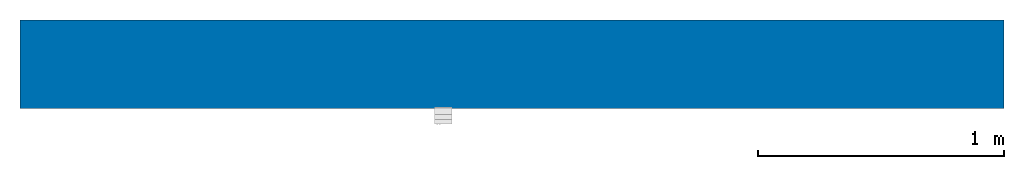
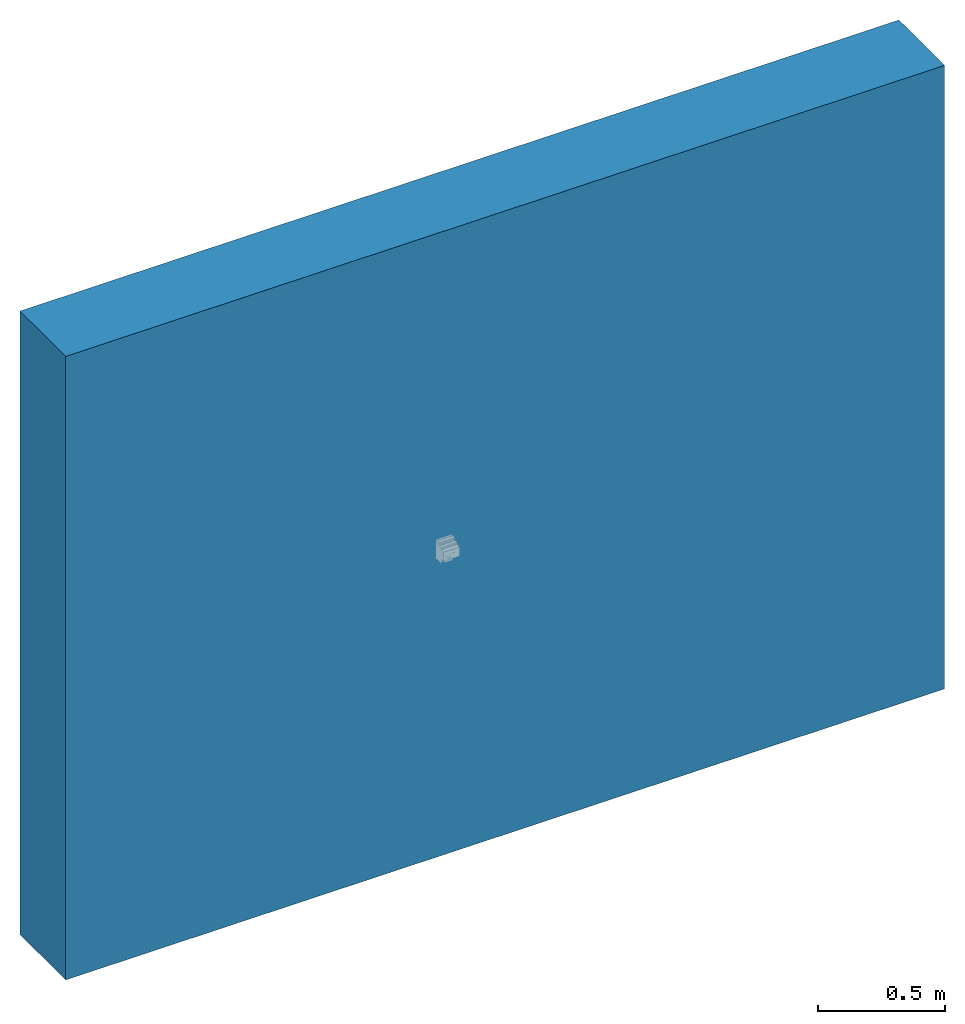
# One storey, incomplete: 1 wall.
"""IFC2X3 building model written with IfcOpenShell, lengths in metres."""

from ifc_helpers import new_model, entity, si_unit, converted_unit, derived_unit, direction, frame, frame_2d, origin, place, context, subcontext, project, spatial, rectangle, extrude, material, layer, layer_set, layer_usage, type_object, element, save


model = new_model("IFC2X3")

# Units and contexts
model_context = context("Model", 3, precision=1e-05, world=origin(), true_north=direction((6.12303176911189e-17, 1.0)))
body_context = subcontext(model_context, "Body", "Model", "MODEL_VIEW")
ifc_project = project(units=[si_unit("LENGTHUNIT", "METRE"), si_unit("AREAUNIT", "SQUARE_METRE"), si_unit("VOLUMEUNIT", "CUBIC_METRE"), converted_unit("PLANEANGLEUNIT", "DEGREE", entity("IfcRatioMeasure", 0.0174532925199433), si_unit("PLANEANGLEUNIT", "RADIAN"), dimensions=[0, 0, 0, 0, 0, 0, 0]), si_unit("MASSUNIT", "GRAM", prefix="KILO"), si_unit("TIMEUNIT", "SECOND"), si_unit("FREQUENCYUNIT", "HERTZ"), si_unit("THERMODYNAMICTEMPERATUREUNIT", "DEGREE_CELSIUS"), derived_unit("THERMALTRANSMITTANCEUNIT", [(si_unit("MASSUNIT", "GRAM", prefix="KILO"), 1), (si_unit("THERMODYNAMICTEMPERATUREUNIT", "KELVIN"), -1), (si_unit("TIMEUNIT", "SECOND"), -3)]), derived_unit("VOLUMETRICFLOWRATEUNIT", [(si_unit("LENGTHUNIT", "METRE"), 3), (si_unit("TIMEUNIT", "SECOND"), -1)]), si_unit("ELECTRICCURRENTUNIT", "AMPERE"), si_unit("ELECTRICVOLTAGEUNIT", "VOLT"), si_unit("POWERUNIT", "WATT"), si_unit("FORCEUNIT", "NEWTON", prefix="KILO"), si_unit("ILLUMINANCEUNIT", "LUX"), si_unit("LUMINOUSFLUXUNIT", "LUMEN"), si_unit("LUMINOUSINTENSITYUNIT", "CANDELA"), derived_unit("USERDEFINED", [(si_unit("MASSUNIT", "GRAM", prefix="KILO"), -1), (si_unit("LENGTHUNIT", "METRE"), -2), (si_unit("TIMEUNIT", "SECOND"), 3), (si_unit("LUMINOUSFLUXUNIT", "LUMEN"), 1)]), derived_unit("LINEARVELOCITYUNIT", [(si_unit("LENGTHUNIT", "METRE"), 1), (si_unit("TIMEUNIT", "SECOND"), -1)]), si_unit("PRESSUREUNIT", "PASCAL"), derived_unit("USERDEFINED", [(si_unit("LENGTHUNIT", "METRE"), -2), (si_unit("MASSUNIT", "GRAM", prefix="KILO"), 1), (si_unit("TIMEUNIT", "SECOND"), -2)])], contexts=[model_context])

# Site, building, storey
site_placement = place(None, origin())
site = spatial("IfcSite", under=ifc_project, at=site_placement, Name="Default", CompositionType="ELEMENT")
building_placement = place(site_placement, origin())
building = spatial("IfcBuilding", under=site, at=building_placement, CompositionType="ELEMENT")
storey_placement = place(building_placement, origin())
storey = spatial("IfcBuildingStorey", under=building, at=storey_placement, Name="Ebene 0", CompositionType="ELEMENT", Elevation=0.0)

# Wall
ifc_material_1 = material(Name="Wärmedämmung - hart")
ifc_layer_1 = layer(ifc_material_1, 0.12)
ifc_material_2 = material(Name="Mauerwerk - Ziegel, verputzt")
ifc_layer_2 = layer(ifc_material_2, 0.24)
ifc_layer_set = layer_set([ifc_layer_1, ifc_layer_2], Name="Basiswand:MW 24.0 WD 12.0")
ifc_layer_usage = layer_usage(ifc_layer_set, "AXIS2", "NEGATIVE", 0.18)
wall_type = type_object("IfcWallType", Name="Basiswand:MW 24.0 WD 12.0", PredefinedType="STANDARD", material=ifc_layer_set)
wall_placement = place(storey_placement, frame((-4.29740000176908, 0.256449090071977, 0.0)))
element("IfcWallStandardCase", 1, at=wall_placement, inside=storey, type_object=wall_type, material=ifc_layer_usage, Name="Basiswand:MW 24.0 WD 12.0", ObjectType="Basiswand:MW 24.0 WD 12.0:3900", context=body_context, shape_type="SweptSolid", body=[
    extrude(rectangle(XDim=4.0, YDim=0.36, at=frame_2d((2.0, -4.16333634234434e-17), x_axis=(-1.0, 0.0))), origin(), (0.0, 0.0, 1.0), 3.0),
])

save(model, "model.ifc")
